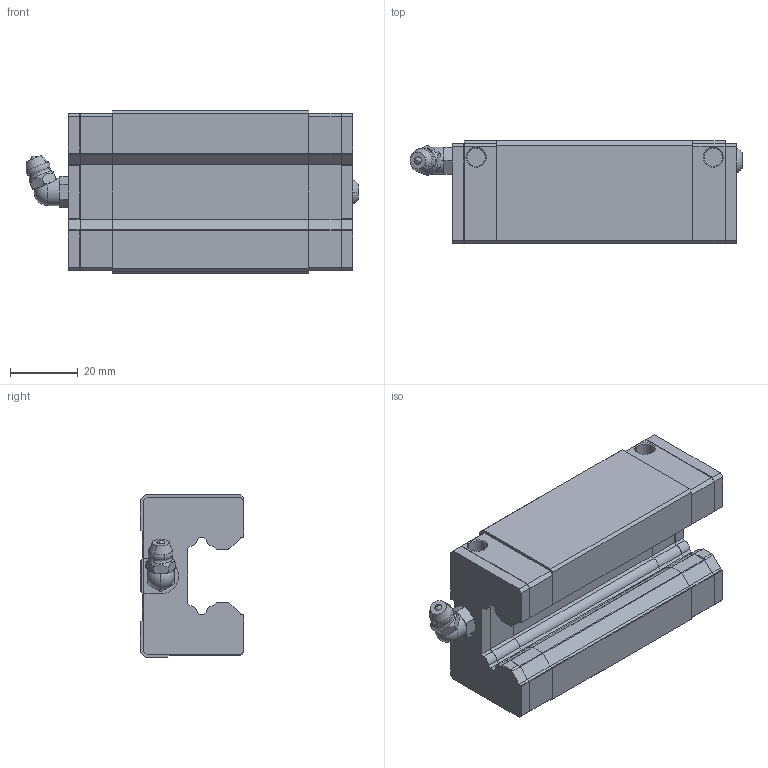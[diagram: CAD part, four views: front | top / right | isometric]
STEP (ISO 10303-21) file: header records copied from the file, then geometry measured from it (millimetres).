
FILE_DESCRIPTION (( 'STEP AP203' ), '1' );
FILE_NAME ('SGL25CA.STEP', '2025-06-27T05:18:09', ( 'Owner' ), ( 'Organization' ), 'SwSTEP 2.0', 'SolidWorks 2020', '' );
FILE_SCHEMA (( 'CONFIG_CONTROL_DESIGN' ));
Length unit declared in the file: millimetre
Products named in the file (1): SGL25CA
Bounding box: 98 x 30.5 x 48 mm (x, y, z)
Volume: 92658.5 mm3; surface area: 28657.1 mm2
Topology: 7 solids, 8 shells, 424 faces, 1115 edges, 717 vertices
Faces by surface type: plane 296, cylinder 94, cone 20, sphere 6, torus 6, bspline 2
Entity records: 13435 total; most frequent: CARTESIAN_POINT 2802, ORIENTED_EDGE 2222, DIRECTION 2167, EDGE_CURVE 1111, LINE 825, VECTOR 825, VERTEX_POINT 715, AXIS2_PLACEMENT_3D 671
